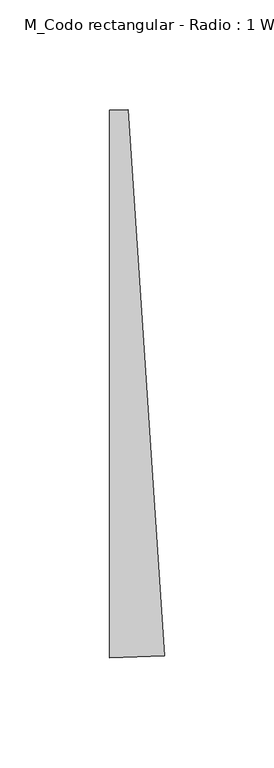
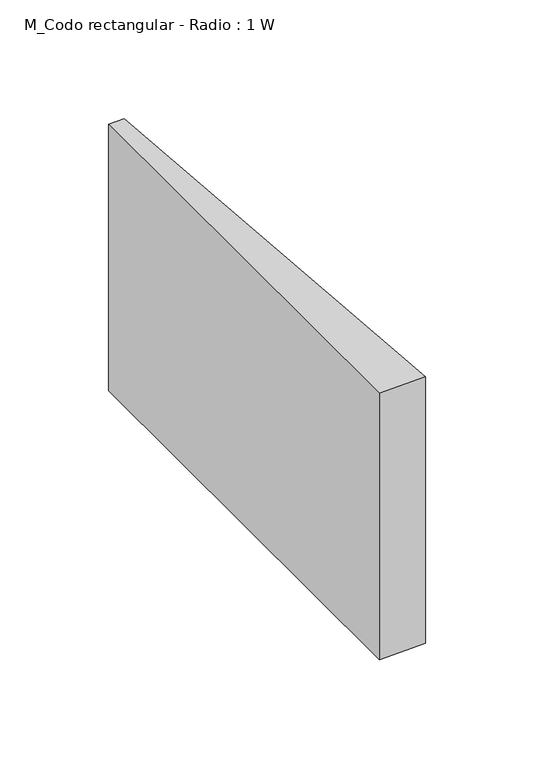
"""IFC4 building model written with IfcOpenShell, lengths in millimetres: duct fitting geometry, M_Codo rectangular - Radio : 1 W."""

from ifc_helpers import new_model, si_unit, point, frame, frame_2d, origin, place, context, project, spatial, polyline, circle_curve, trimmed, segment, composite_curve, outline, extrude, source, transform, mapped, element, save


def m_codo_rectangular_radio_1_w_7470e93c(model_context):
    return source(origin(), model_context, "Body", "SweptSolid", [
        extrude(outline(composite_curve([segment(trimmed(circle_curve(frame_2d((-8.4066254, 250.0)), 375.0), [point((16.7847659, -124.1529016))], [point((-8.4066254, -125.0))], False, "CARTESIAN"), True, "CONTINUOUS"), segment(polyline([(-8.4066254, -125.0), (-8.4066254, 125.0)]), True, "CONTINUOUS"), segment(trimmed(circle_curve(frame_2d((-8.4066254, 250.0)), 125.0), [point((-8.4066254, 125.0))], [point((-0.009495, 125.2823661))], True, "CARTESIAN"), True, "CONTINUOUS"), segment(polyline([(-0.009495, 125.2823661), (16.7847659, -124.1529016)]), True, "CONTINUOUS")], self_intersect=False)), frame((0.0, 0.0, -75.0), z_axis=(0.0, 0.0, 1.0), x_axis=(1.0, 0.0, 0.0)), (0.0, 0.0, 1.0), 150.0),
    ])


if __name__ == "__main__":
    model = new_model("IFC4")
    model_context = context("Model", 3, world=origin())
    ifc_project = project(units=[si_unit("LENGTHUNIT", "METRE", prefix="MILLI")], contexts=[model_context])
    site = spatial("IfcSite", under=ifc_project)
    building = spatial("IfcBuilding", under=site)
    placement = place(None, origin())
    m_codo_rectangular_radio_1_w_shape = m_codo_rectangular_radio_1_w_7470e93c(model_context)
    element("IfcDuctFitting", 1, ObjectType="M_Codo rectangular - Radio : 1 W", at=placement, inside=building, context=model_context, shape_type="MappedRepresentation", body=[
        mapped(m_codo_rectangular_radio_1_w_shape, transform((0.0, 0.0, 0.0), x_axis=(1.0, 0.0, 0.0), y_axis=(0.0, 1.0, 0.0), z_axis=(0.0, 0.0, 1.0))),
    ])
    save(model, "model.ifc")
